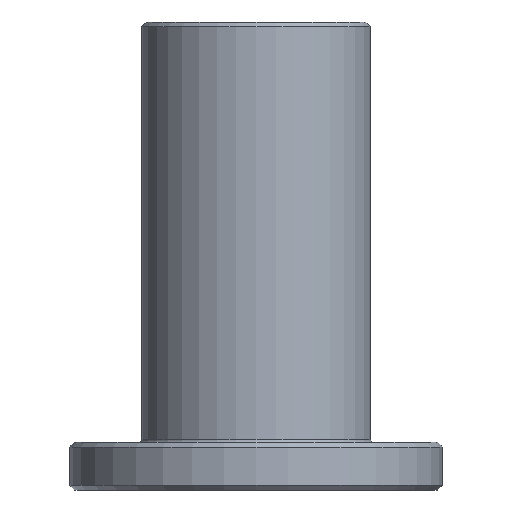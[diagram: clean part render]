
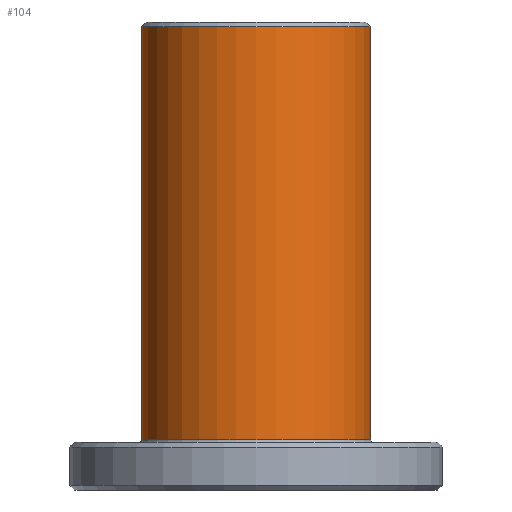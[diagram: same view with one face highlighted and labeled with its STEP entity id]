
A CAD part, front view. The second image highlights one B-rep face of the part: STEP entity #104.
In plain terms, the highlighted cylindrical face has radius 24 mm (diameter 48 mm), a full revolution.
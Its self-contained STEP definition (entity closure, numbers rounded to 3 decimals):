
#104=ADVANCED_FACE('',(#207,#208),#209,.T.);
#207=FACE_OUTER_BOUND('',#363,.T.);
#208=FACE_OUTER_BOUND('',#364,.T.);
#209=CYLINDRICAL_SURFACE('',#365,24.0);
#363=EDGE_LOOP('',(#640));
#364=EDGE_LOOP('',(#641));
#365=AXIS2_PLACEMENT_3D('',#642,#643,#644);
#640=ORIENTED_EDGE('',*,*,#879,.F.);
#641=ORIENTED_EDGE('',*,*,#880,.T.);
#642=CARTESIAN_POINT('',(0.,0.0,53.75));
#643=DIRECTION('',(0.,-0.0,1.0));
#644=DIRECTION('',(0.0,1.0,0.0));
#879=EDGE_CURVE('',#1034,#1034,#1035,.T.);
#880=EDGE_CURVE('',#1036,#1036,#1037,.T.);
#1034=VERTEX_POINT('',#1233);
#1035=CIRCLE('',#1234,24.0);
#1036=VERTEX_POINT('',#1235);
#1037=CIRCLE('',#1236,24.0);
#1233=CARTESIAN_POINT('',(0.,24.0,97.0));
#1234=AXIS2_PLACEMENT_3D('',#1453,#1454,#1455);
#1235=CARTESIAN_POINT('',(0.0,24.0,10.5));
#1236=AXIS2_PLACEMENT_3D('',#1456,#1457,#1458);
#1453=CARTESIAN_POINT('',(0.,0.0,97.0));
#1454=DIRECTION('',(0.,-0.0,1.0));
#1455=DIRECTION('',(0.0,1.0,0.0));
#1456=CARTESIAN_POINT('',(0.0,0.0,10.5));
#1457=DIRECTION('',(0.,-0.0,1.0));
#1458=DIRECTION('',(0.0,1.0,0.0));
